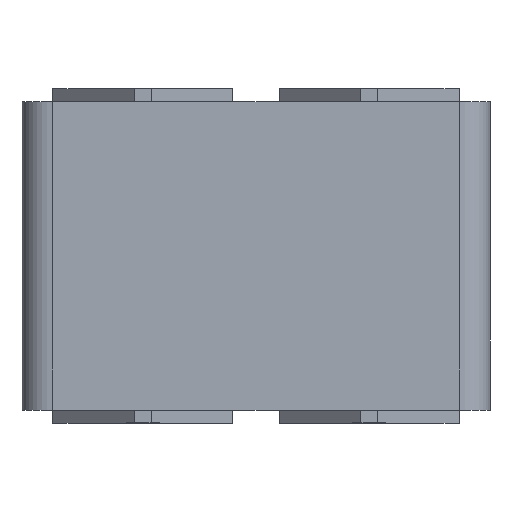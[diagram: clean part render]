
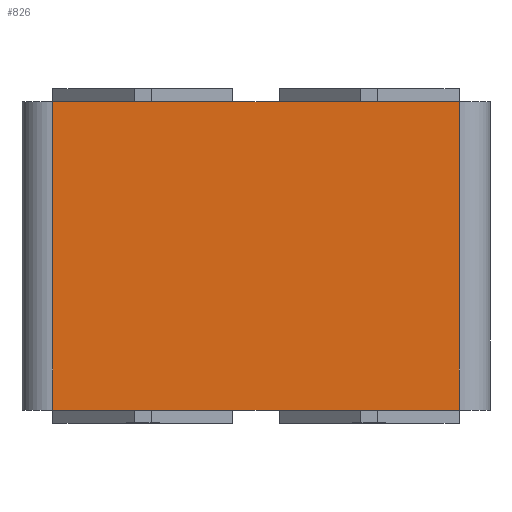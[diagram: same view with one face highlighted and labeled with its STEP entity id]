
A CAD part, top view. The second image highlights one B-rep face of the part: STEP entity #826.
In plain terms, the highlighted planar face has unit normal (0, 0, 1).
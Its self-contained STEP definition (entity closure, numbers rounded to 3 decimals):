
#768=CARTESIAN_POINT('',(39.5,60.0,23.5));
#769=VERTEX_POINT('',#768);
#777=CARTESIAN_POINT('',(39.5,0.0,23.5));
#778=VERTEX_POINT('',#777);
#779=CARTESIAN_POINT('',(39.5,0.0,23.5));
#780=DIRECTION('',(0.0,1.0,0.0));
#781=VECTOR('',#780,60.0);
#782=LINE('',#779,#781);
#783=EDGE_CURVE('',#778,#769,#782,.T.);
#796=CARTESIAN_POINT('',(39.5,0.0,23.5));
#797=DIRECTION('',(0.0,0.0,1.0));
#798=DIRECTION('',(1.0,0.0,0.0));
#799=AXIS2_PLACEMENT_3D('',#796,#797,#798);
#800=PLANE('',#799);
#801=CARTESIAN_POINT('',(-39.5,60.0,23.5));
#802=VERTEX_POINT('',#801);
#803=CARTESIAN_POINT('',(39.5,60.0,23.5));
#804=DIRECTION('',(-1.0,0.0,0.0));
#805=VECTOR('',#804,79.);
#806=LINE('',#803,#805);
#807=EDGE_CURVE('',#769,#802,#806,.T.);
#808=ORIENTED_EDGE('',*,*,#807,.T.);
#809=CARTESIAN_POINT('',(-39.5,0.0,23.5));
#810=VERTEX_POINT('',#809);
#811=CARTESIAN_POINT('',(-39.5,0.0,23.5));
#812=DIRECTION('',(0.0,1.0,0.0));
#813=VECTOR('',#812,60.0);
#814=LINE('',#811,#813);
#815=EDGE_CURVE('',#810,#802,#814,.T.);
#816=ORIENTED_EDGE('',*,*,#815,.F.);
#817=CARTESIAN_POINT('',(-39.5,0.0,23.5));
#818=DIRECTION('',(1.0,0.0,0.0));
#819=VECTOR('',#818,79.);
#820=LINE('',#817,#819);
#821=EDGE_CURVE('',#810,#778,#820,.T.);
#822=ORIENTED_EDGE('',*,*,#821,.T.);
#823=ORIENTED_EDGE('',*,*,#783,.T.);
#824=EDGE_LOOP('',(#808,#816,#822,#823));
#825=FACE_OUTER_BOUND('',#824,.T.);
#826=ADVANCED_FACE('',(#825),#800,.T.);
